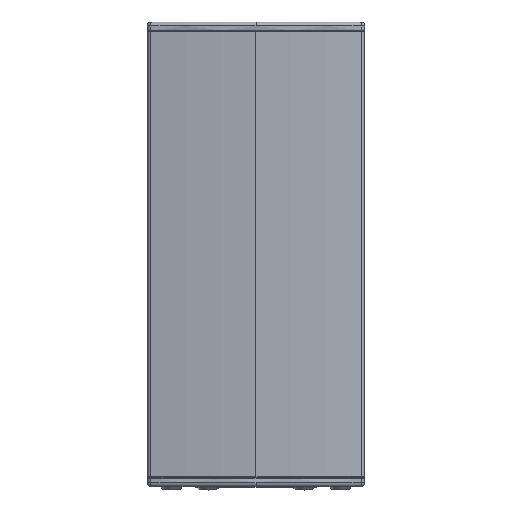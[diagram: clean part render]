
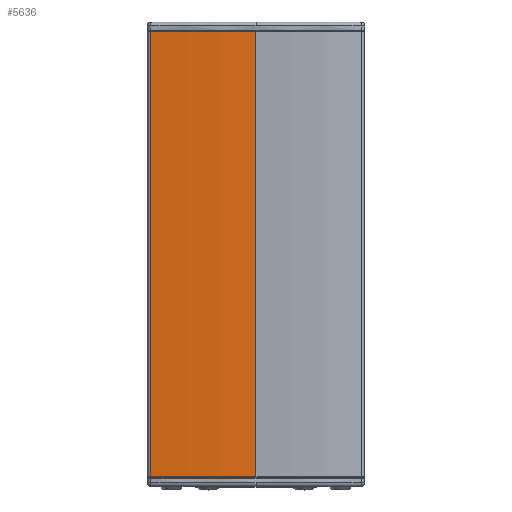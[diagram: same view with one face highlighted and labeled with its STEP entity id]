
A CAD part, top view. The second image highlights one B-rep face of the part: STEP entity #5636.
In plain terms, the highlighted cylindrical face has radius 1198 mm (diameter 2396 mm), a partial arc.
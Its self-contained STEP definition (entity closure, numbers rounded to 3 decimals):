
#474 = EDGE_LOOP ( 'NONE', ( #21993, #8774, #3325, #10090 ) ) ;
#534 = VERTEX_POINT ( 'NONE', #19711 ) ;
#1175 = LINE ( 'NONE', #19005, #10320 ) ;
#1867 = CARTESIAN_POINT ( 'NONE',  ( 0., 738., -1198. ) ) ;
#2488 = LINE ( 'NONE', #13838, #23618 ) ;
#3325 = ORIENTED_EDGE ( 'NONE', *, *, #12666, .T. ) ;
#3473 = CIRCLE ( 'NONE', #20938, 1198. ) ;
#4152 = DIRECTION ( 'NONE',  ( 0., 1., 0. ) ) ;
#4904 = EDGE_CURVE ( 'NONE', #17295, #534, #10694, .T. ) ;
#5308 = EDGE_CURVE ( 'NONE', #17295, #18279, #1175, .T. ) ;
#5569 = DIRECTION ( 'NONE',  ( 0., 0., 1. ) ) ;
#5636 = ADVANCED_FACE ( 'NONE', ( #12606 ), #20715, .T. ) ;
#6346 = EDGE_CURVE ( 'NONE', #534, #16432, #2488, .T. ) ;
#6390 = CARTESIAN_POINT ( 'NONE',  ( -174.373, 0., -12.758 ) ) ;
#6631 = AXIS2_PLACEMENT_3D ( 'NONE', #7480, #15235, #5569 ) ;
#7332 = AXIS2_PLACEMENT_3D ( 'NONE', #22514, #18823, #22270 ) ;
#7480 = CARTESIAN_POINT ( 'NONE',  ( 0., 0., -1198. ) ) ;
#8774 = ORIENTED_EDGE ( 'NONE', *, *, #6346, .T. ) ;
#10090 = ORIENTED_EDGE ( 'NONE', *, *, #5308, .F. ) ;
#10181 = CARTESIAN_POINT ( 'NONE',  ( 0., 738., 0. ) ) ;
#10320 = VECTOR ( 'NONE', #20912, 1000. ) ;
#10694 = CIRCLE ( 'NONE', #6631, 1198. ) ;
#12606 = FACE_OUTER_BOUND ( 'NONE', #474, .T. ) ;
#12666 = EDGE_CURVE ( 'NONE', #16432, #18279, #3473, .T. ) ;
#13838 = CARTESIAN_POINT ( 'NONE',  ( 0., -447.877, 0. ) ) ;
#15235 = DIRECTION ( 'NONE',  ( 0., 1., 0. ) ) ;
#16432 = VERTEX_POINT ( 'NONE', #10181 ) ;
#17295 = VERTEX_POINT ( 'NONE', #6390 ) ;
#18279 = VERTEX_POINT ( 'NONE', #25124 ) ;
#18823 = DIRECTION ( 'NONE',  ( 0., 1., 0. ) ) ;
#19005 = CARTESIAN_POINT ( 'NONE',  ( -174.373, 0., -12.758 ) ) ;
#19547 = DIRECTION ( 'NONE',  ( 0., -1., 0. ) ) ;
#19711 = CARTESIAN_POINT ( 'NONE',  ( 0., 0., 0. ) ) ;
#20715 = CYLINDRICAL_SURFACE ( 'NONE', #7332, 1198. ) ;
#20912 = DIRECTION ( 'NONE',  ( 0., 1., 0. ) ) ;
#20938 = AXIS2_PLACEMENT_3D ( 'NONE', #1867, #19547, #25164 ) ;
#21993 = ORIENTED_EDGE ( 'NONE', *, *, #4904, .T. ) ;
#22270 = DIRECTION ( 'NONE',  ( 0., 0., 1. ) ) ;
#22514 = CARTESIAN_POINT ( 'NONE',  ( 0., -447.877, -1198. ) ) ;
#23618 = VECTOR ( 'NONE', #4152, 1000. ) ;
#25124 = CARTESIAN_POINT ( 'NONE',  ( -174.373, 738., -12.758 ) ) ;
#25164 = DIRECTION ( 'NONE',  ( 0., 0., -1. ) ) ;
